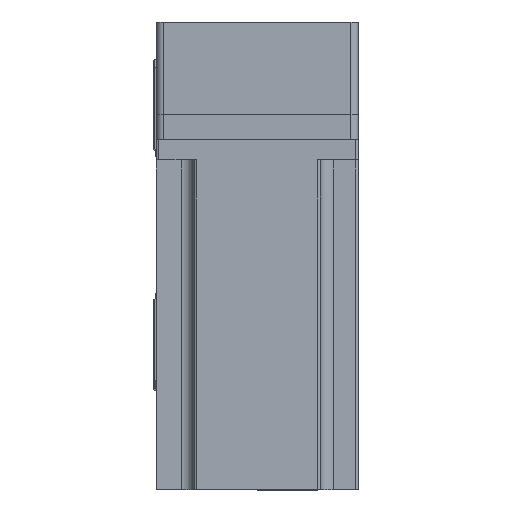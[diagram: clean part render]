
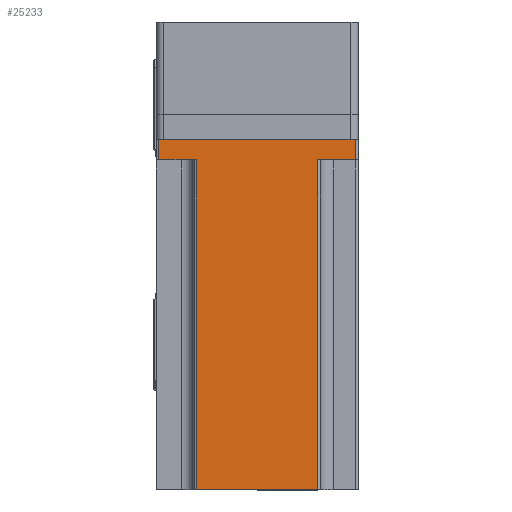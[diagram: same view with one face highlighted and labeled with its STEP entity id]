
A CAD part, top view. The second image highlights one B-rep face of the part: STEP entity #25233.
In plain terms, the highlighted planar face has unit normal (0, 0, 1) as drawn and (0, 1, 0) by its records, which use the part's own axes.
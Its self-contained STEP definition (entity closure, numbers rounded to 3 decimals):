
#703 = EDGE_CURVE ( 'NONE', #40392, #33839, #14751, .T. ) ;
#2701 = LINE ( 'NONE', #32461, #36278 ) ;
#3032 = CARTESIAN_POINT ( 'NONE',  ( 25., 40., 8. ) ) ;
#3246 = EDGE_CURVE ( 'NONE', #10370, #33839, #12189, .T. ) ;
#3399 = ORIENTED_EDGE ( 'NONE', *, *, #43041, .F. ) ;
#3860 = CARTESIAN_POINT ( 'NONE',  ( 39., 40., 0. ) ) ;
#3912 = FACE_OUTER_BOUND ( 'NONE', #37569, .T. ) ;
#4559 = CARTESIAN_POINT ( 'NONE',  ( 24., 40., 8. ) ) ;
#4804 = CARTESIAN_POINT ( 'NONE',  ( -39., 40., 8. ) ) ;
#6149 = EDGE_CURVE ( 'NONE', #40392, #36165, #8665, .T. ) ;
#8497 = EDGE_CURVE ( 'NONE', #11051, #41964, #19621, .T. ) ;
#8665 = LINE ( 'NONE', #24932, #34373 ) ;
#8786 = CARTESIAN_POINT ( 'NONE',  ( -24., 40., 138.3 ) ) ;
#8821 = VECTOR ( 'NONE', #26144, 1000. ) ;
#9174 = CARTESIAN_POINT ( 'NONE',  ( 40., 40., 138.3 ) ) ;
#9429 = DIRECTION ( 'NONE',  ( 0., 0., -1. ) ) ;
#10241 = DIRECTION ( 'NONE',  ( -1., 0., 0. ) ) ;
#10370 = VERTEX_POINT ( 'NONE', #39411 ) ;
#10731 = VECTOR ( 'NONE', #9429, 1000. ) ;
#11051 = VERTEX_POINT ( 'NONE', #41202 ) ;
#12189 = LINE ( 'NONE', #40975, #21090 ) ;
#12544 = DIRECTION ( 'NONE',  ( 1., 0., 0. ) ) ;
#14751 = LINE ( 'NONE', #33019, #18953 ) ;
#15762 = PLANE ( 'NONE',  #37416 ) ;
#16343 = CARTESIAN_POINT ( 'NONE',  ( -39., 40., 0. ) ) ;
#18764 = LINE ( 'NONE', #3032, #8821 ) ;
#18953 = VECTOR ( 'NONE', #36444, 1000. ) ;
#19621 = LINE ( 'NONE', #29498, #10731 ) ;
#20156 = VERTEX_POINT ( 'NONE', #4804 ) ;
#21090 = VECTOR ( 'NONE', #24192, 1000. ) ;
#21595 = ORIENTED_EDGE ( 'NONE', *, *, #8497, .T. ) ;
#24192 = DIRECTION ( 'NONE',  ( 0., 0., 1. ) ) ;
#24365 = CARTESIAN_POINT ( 'NONE',  ( 24., 40., 138.3 ) ) ;
#24891 = CARTESIAN_POINT ( 'NONE',  ( -25., 40., 8. ) ) ;
#24932 = CARTESIAN_POINT ( 'NONE',  ( 24., 40., 138.3 ) ) ;
#25233 = ADVANCED_FACE ( 'NONE', ( #3912 ), #15762, .F. ) ;
#26144 = DIRECTION ( 'NONE',  ( -1., 0., 0. ) ) ;
#26997 = ORIENTED_EDGE ( 'NONE', *, *, #3246, .T. ) ;
#27029 = VERTEX_POINT ( 'NONE', #16343 ) ;
#28270 = DIRECTION ( 'NONE',  ( 1., 0., 0. ) ) ;
#29498 = CARTESIAN_POINT ( 'NONE',  ( 39., 40., 138.3 ) ) ;
#29573 = EDGE_CURVE ( 'NONE', #20156, #10370, #33541, .T. ) ;
#29905 = ORIENTED_EDGE ( 'NONE', *, *, #29573, .T. ) ;
#30619 = CARTESIAN_POINT ( 'NONE',  ( 40., 40., 0. ) ) ;
#32461 = CARTESIAN_POINT ( 'NONE',  ( -39., 40., 138.3 ) ) ;
#32599 = DIRECTION ( 'NONE',  ( 0., -1., 0. ) ) ;
#32617 = VECTOR ( 'NONE', #10241, 1000. ) ;
#33019 = CARTESIAN_POINT ( 'NONE',  ( 40., 40., 138.3 ) ) ;
#33541 = LINE ( 'NONE', #24891, #41438 ) ;
#33839 = VERTEX_POINT ( 'NONE', #8786 ) ;
#34099 = EDGE_CURVE ( 'NONE', #41964, #27029, #41584, .T. ) ;
#34373 = VECTOR ( 'NONE', #34948, 1000. ) ;
#34702 = ORIENTED_EDGE ( 'NONE', *, *, #40062, .T. ) ;
#34948 = DIRECTION ( 'NONE',  ( 0., 0., -1. ) ) ;
#35869 = DIRECTION ( 'NONE',  ( 0., 0., 1. ) ) ;
#36165 = VERTEX_POINT ( 'NONE', #4559 ) ;
#36278 = VECTOR ( 'NONE', #35869, 1000. ) ;
#36444 = DIRECTION ( 'NONE',  ( -1., 0., 0. ) ) ;
#36999 = ORIENTED_EDGE ( 'NONE', *, *, #34099, .T. ) ;
#37348 = ORIENTED_EDGE ( 'NONE', *, *, #6149, .T. ) ;
#37416 = AXIS2_PLACEMENT_3D ( 'NONE', #9174, #32599, #12544 ) ;
#37569 = EDGE_LOOP ( 'NONE', ( #29905, #26997, #41436, #37348, #3399, #21595, #36999, #34702 ) ) ;
#39411 = CARTESIAN_POINT ( 'NONE',  ( -24., 40., 8. ) ) ;
#40062 = EDGE_CURVE ( 'NONE', #27029, #20156, #2701, .T. ) ;
#40392 = VERTEX_POINT ( 'NONE', #24365 ) ;
#40975 = CARTESIAN_POINT ( 'NONE',  ( -24., 40., 138.3 ) ) ;
#41202 = CARTESIAN_POINT ( 'NONE',  ( 39., 40., 8. ) ) ;
#41436 = ORIENTED_EDGE ( 'NONE', *, *, #703, .F. ) ;
#41438 = VECTOR ( 'NONE', #28270, 1000. ) ;
#41584 = LINE ( 'NONE', #30619, #32617 ) ;
#41964 = VERTEX_POINT ( 'NONE', #3860 ) ;
#43041 = EDGE_CURVE ( 'NONE', #11051, #36165, #18764, .T. ) ;
